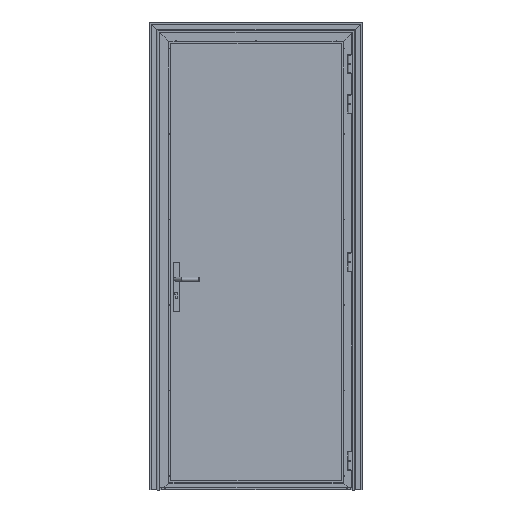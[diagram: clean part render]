
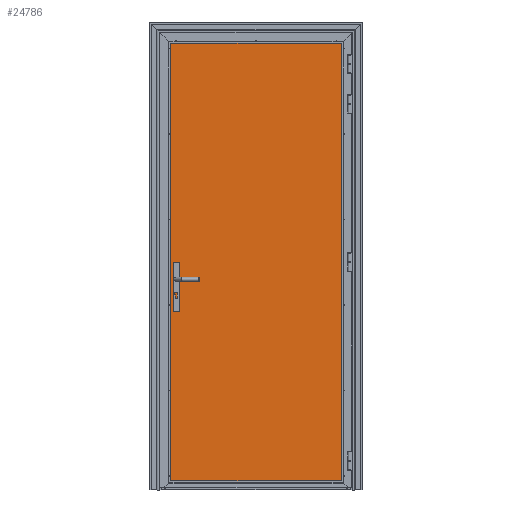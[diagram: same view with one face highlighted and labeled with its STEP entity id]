
A CAD part, top view. The second image highlights one B-rep face of the part: STEP entity #24786.
In plain terms, the highlighted planar face has unit normal (0, 0, 1).
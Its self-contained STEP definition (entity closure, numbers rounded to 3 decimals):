
#669 = CARTESIAN_POINT ( 'NONE',  ( 452., 0., 20. ) ) ;
#2346 = CARTESIAN_POINT ( 'NONE',  ( -449., 2233.5, 20. ) ) ;
#2994 = VERTEX_POINT ( 'NONE', #669 ) ;
#3771 = CARTESIAN_POINT ( 'NONE',  ( -449., 0., 20. ) ) ;
#3940 = LINE ( 'NONE', #34273, #30069 ) ;
#5565 = VERTEX_POINT ( 'NONE', #10663 ) ;
#5799 = EDGE_LOOP ( 'NONE', ( #16843, #31116, #30180, #17165 ) ) ;
#6629 = LINE ( 'NONE', #22697, #8043 ) ;
#6794 = DIRECTION ( 'NONE',  ( 0., 1., 0. ) ) ;
#7964 = DIRECTION ( 'NONE',  ( -1., 0., 0. ) ) ;
#8043 = VECTOR ( 'NONE', #6794, 1000. ) ;
#9567 = VECTOR ( 'NONE', #13476, 1000. ) ;
#10663 = CARTESIAN_POINT ( 'NONE',  ( 452., 2233.5, 20. ) ) ;
#11591 = EDGE_CURVE ( 'NONE', #2994, #5565, #6629, .T. ) ;
#11623 = DIRECTION ( 'NONE',  ( 0., -1., 0. ) ) ;
#11798 = CARTESIAN_POINT ( 'NONE',  ( -449., 2233.5, 20. ) ) ;
#12137 = VERTEX_POINT ( 'NONE', #29783 ) ;
#13476 = DIRECTION ( 'NONE',  ( 1., 0., 0. ) ) ;
#13894 = FACE_OUTER_BOUND ( 'NONE', #5799, .T. ) ;
#15324 = LINE ( 'NONE', #11798, #28196 ) ;
#15652 = LINE ( 'NONE', #18726, #9567 ) ;
#16843 = ORIENTED_EDGE ( 'NONE', *, *, #11591, .T. ) ;
#17165 = ORIENTED_EDGE ( 'NONE', *, *, #30649, .T. ) ;
#18379 = EDGE_CURVE ( 'NONE', #12137, #21634, #15324, .T. ) ;
#18726 = CARTESIAN_POINT ( 'NONE',  ( -449., 0., 20. ) ) ;
#21634 = VERTEX_POINT ( 'NONE', #3771 ) ;
#21672 = PLANE ( 'NONE',  #22348 ) ;
#21694 = EDGE_CURVE ( 'NONE', #12137, #5565, #3940, .T. ) ;
#22348 = AXIS2_PLACEMENT_3D ( 'NONE', #2346, #35586, #7964 ) ;
#22697 = CARTESIAN_POINT ( 'NONE',  ( 452., 0., 20. ) ) ;
#24786 = ADVANCED_FACE ( 'PlaceVoor', ( #13894 ), #21672, .F. ) ;
#28196 = VECTOR ( 'NONE', #11623, 1000. ) ;
#29783 = CARTESIAN_POINT ( 'NONE',  ( -449., 2233.5, 20. ) ) ;
#30069 = VECTOR ( 'NONE', #31925, 1000. ) ;
#30180 = ORIENTED_EDGE ( 'NONE', *, *, #18379, .T. ) ;
#30649 = EDGE_CURVE ( 'NONE', #21634, #2994, #15652, .T. ) ;
#31116 = ORIENTED_EDGE ( 'NONE', *, *, #21694, .F. ) ;
#31925 = DIRECTION ( 'NONE',  ( 1., 0., 0. ) ) ;
#34273 = CARTESIAN_POINT ( 'NONE',  ( -449., 2233.5, 20. ) ) ;
#35586 = DIRECTION ( 'NONE',  ( 0., 0., -1. ) ) ;
